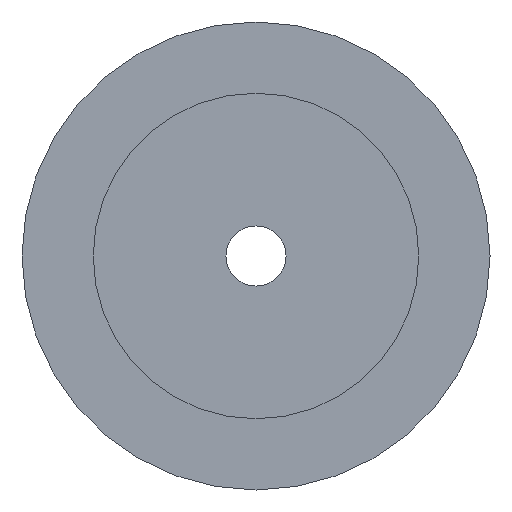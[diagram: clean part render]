
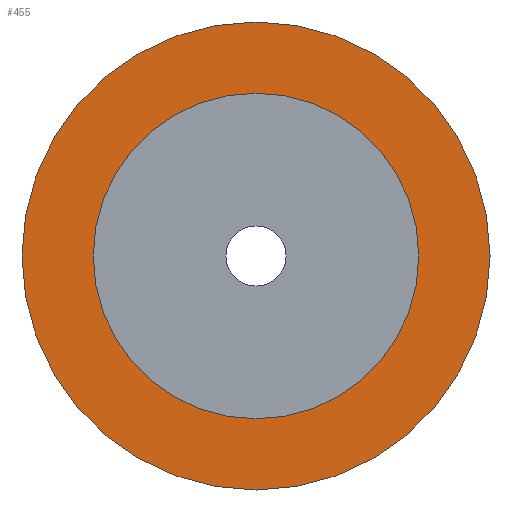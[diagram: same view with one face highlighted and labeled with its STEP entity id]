
A CAD part, front view. The second image highlights one B-rep face of the part: STEP entity #455.
In plain terms, the highlighted planar face has unit normal (0, -1, 0).
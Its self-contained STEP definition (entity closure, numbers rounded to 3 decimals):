
#14 = AXIS2_PLACEMENT_3D ( 'NONE', #206, #347, #23 ) ;
#23 = DIRECTION ( 'NONE',  ( 0., 0., 1. ) ) ;
#37 = DIRECTION ( 'NONE',  ( 0., 0., 1. ) ) ;
#38 = EDGE_LOOP ( 'NONE', ( #51 ) ) ;
#51 = ORIENTED_EDGE ( 'NONE', *, *, #341, .F. ) ;
#66 = EDGE_LOOP ( 'NONE', ( #81 ) ) ;
#81 = ORIENTED_EDGE ( 'NONE', *, *, #314, .T. ) ;
#98 = DIRECTION ( 'NONE',  ( 0., 0., 1. ) ) ;
#133 = CARTESIAN_POINT ( 'NONE',  ( 0., 0., 0. ) ) ;
#148 = FACE_BOUND ( 'NONE', #66, .T. ) ;
#176 = PLANE ( 'NONE',  #422 ) ;
#206 = CARTESIAN_POINT ( 'NONE',  ( 0., 0., 0. ) ) ;
#240 = DIRECTION ( 'NONE',  ( 0., 1., 0. ) ) ;
#265 = CIRCLE ( 'NONE', #14, 32. ) ;
#287 = CARTESIAN_POINT ( 'NONE',  ( 0., 0., 32. ) ) ;
#314 = EDGE_CURVE ( 'NONE', #356, #356, #265, .T. ) ;
#317 = CARTESIAN_POINT ( 'NONE',  ( 0., 0., 0. ) ) ;
#338 = CIRCLE ( 'NONE', #382, 46. ) ;
#341 = EDGE_CURVE ( 'NONE', #459, #459, #338, .T. ) ;
#347 = DIRECTION ( 'NONE',  ( 0., 1., 0. ) ) ;
#356 = VERTEX_POINT ( 'NONE', #287 ) ;
#357 = DIRECTION ( 'NONE',  ( 0., 1., 0. ) ) ;
#382 = AXIS2_PLACEMENT_3D ( 'NONE', #133, #240, #98 ) ;
#390 = FACE_OUTER_BOUND ( 'NONE', #38, .T. ) ;
#422 = AXIS2_PLACEMENT_3D ( 'NONE', #317, #357, #37 ) ;
#425 = CARTESIAN_POINT ( 'NONE',  ( 0., 0., 46. ) ) ;
#455 = ADVANCED_FACE ( 'NONE', ( #390, #148 ), #176, .F. ) ;
#459 = VERTEX_POINT ( 'NONE', #425 ) ;
